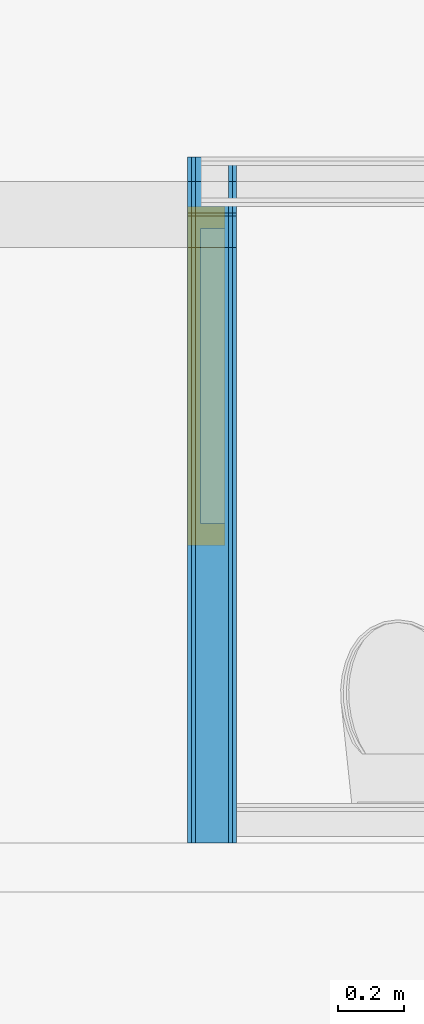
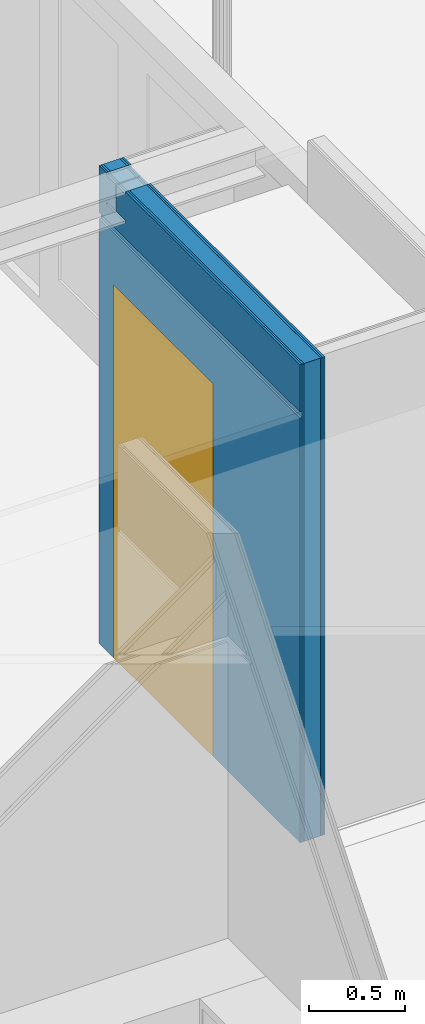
# One storey, part 17 of 35: 5 building element parts, 1 door, 1 opening, 1 element without a shape of its own.
"""IFC2X3 building model written with IfcOpenShell, lengths in millimetres."""

from ifc_helpers import new_model, entity, si_unit, converted_unit, derived_unit, money_unit, direction, frame, origin_with_axes, place, context, subcontext, project, spatial, faceted_brep, source, transform, mapped, material, type_object, type_shapes, element, fill, aggregate, save


model = new_model("IFC2X3")

# Units and contexts
model_context = context("Model", 3, precision=0.01, world=origin_with_axes(), true_north=direction((0.0, 1.0)))
body_context = subcontext(model_context, "Body", "Model", "MODEL_VIEW")
ifc_project = project(units=[si_unit("LENGTHUNIT", "METRE", prefix="MILLI"), si_unit("AREAUNIT", "SQUARE_METRE"), si_unit("VOLUMEUNIT", "CUBIC_METRE"), converted_unit("PLANEANGLEUNIT", "DEGREE", entity("IfcPlaneAngleMeasure", 0.0174532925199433), si_unit("PLANEANGLEUNIT", "RADIAN"), dimensions=[0, 0, 0, 0, 0, 0, 0]), money_unit("EUR"), converted_unit("TIMEUNIT", "Year", entity("IfcTimeMeasure", 31557600.0), si_unit("TIMEUNIT", "SECOND"), dimensions=[0, 0, 1, 0, 0, 0, 0]), si_unit("MASSUNIT", "GRAM", prefix="KILO"), si_unit("THERMODYNAMICTEMPERATUREUNIT", "DEGREE_CELSIUS"), si_unit("LUMINOUSINTENSITYUNIT", "LUMEN"), si_unit("ENERGYUNIT", "JOULE", prefix="MEGA"), derived_unit("THERMALCONDUCTANCEUNIT", [(si_unit("POWERUNIT", "WATT"), 1), (si_unit("LENGTHUNIT", "METRE"), -1), (si_unit("THERMODYNAMICTEMPERATUREUNIT", "KELVIN"), -1)]), derived_unit("SPECIFICHEATCAPACITYUNIT", [(si_unit("ENERGYUNIT", "JOULE"), 1), (si_unit("MASSUNIT", "GRAM", prefix="KILO"), -1), (si_unit("THERMODYNAMICTEMPERATUREUNIT", "KELVIN"), -1)]), derived_unit("MASSDENSITYUNIT", [(si_unit("MASSUNIT", "GRAM", prefix="KILO"), 1), (si_unit("VOLUMEUNIT", "CUBIC_METRE"), -1)])], contexts=[model_context])

# Site, building, storey
site_placement = place(None, origin_with_axes())
site = spatial("IfcSite", under=ifc_project, at=site_placement, Name="<site naam>", CompositionType="ELEMENT")
building_placement = place(site_placement, origin_with_axes())
building = spatial("IfcBuilding", under=site, at=building_placement, Name="<Naam gebouw>", CompositionType="ELEMENT")
storey_placement = place(building_placement, frame((0.0, 0.0, 6345.0), z_axis=(0.0, 0.0, 1.0), x_axis=(1.0, 0.0, 0.0)))
storey = spatial("IfcBuildingStorey", under=building, at=storey_placement, Name="02 2e tussenverdieping", CompositionType="ELEMENT", Elevation=6345.0)

# Door
door_style = type_object("IfcDoorStyle", Name="D1 27", ConstructionType="NOTDEFINED", OperationType="SINGLE_SWING_RIGHT", ParameterTakesPrecedence=False, Sizeable=False)
shared_shape = source(origin_with_axes(), body_context, "Body", "Brep", [
    faceted_brep([(467.0, -40.0, 0.0), (467.0, -40.0, 12.0), (450.0, -40.0, 12.0), (450.0, -40.0, 0.0), (-467.0, -40.0, 0.0), (-467.0, -40.0, 12.0), (-450.0, -40.0, 12.0), (-450.0, -114.0, 11.99999999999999), (450.0, -114.0, 11.99999999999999), (450.0, -114.0, 0.0), (-450.0, -114.0, 0.0), (-450.0, -40.0, 0.0)], [[[0, 1, 2, 3]], [[4, 5, 1, 0]], [[1, 5, 6, 7, 8, 2]], [[3, 2, 8, 9]], [[0, 3, 9, 10, 11, 4]], [[11, 6, 5, 4]], [[10, 7, 6, 11]], [[9, 8, 7, 10]]]),
    faceted_brep([(-449.9999999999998, -40.0, 0.0), (-450.0, -39.99999999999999, 2300.0), (-450.0, -114.0, 2300.0), (-450.0, -114.0, 0.0), (-467.0, -40.0, 2300.0), (-467.0, -40.0, 0.0), (-467.0, 0.0, 2300.0), (-517.0, 0.0, 2300.0), (-517.0, -114.0, 2300.0), (-517.0, -114.0, 0.0), (-517.0, 0.0, 0.0), (-467.0, 0.0, 0.0)], [[[0, 1, 2, 3]], [[4, 1, 0, 5]], [[4, 6, 7, 8, 2, 1]], [[3, 2, 8, 9]], [[5, 0, 3, 9, 10, 11]], [[6, 4, 5, 11]], [[6, 11, 10, 7]], [[10, 9, 8, 7]]]),
    faceted_brep([(467.0, -40.0, 2300.0), (450.0, -39.99999999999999, 2300.0), (450.0, -114.0, 2300.0), (517.0, -114.0, 2300.0), (517.0, 0.0, 2300.0), (467.0, 0.0, 2300.0), (467.0, -40.0, 0.0), (450.0, -40.0, 0.0), (450.0, -114.0, 0.0), (517.0, -114.0, 0.0), (517.0, 0.0, 0.0), (467.0, 0.0, 0.0)], [[[0, 1, 2, 3, 4, 5]], [[1, 0, 6, 7]], [[1, 7, 8, 2]], [[3, 2, 8, 9]], [[4, 3, 9, 10]], [[11, 5, 4, 10]], [[0, 5, 11, 6]], [[6, 11, 10, 9, 8, 7]]]),
    faceted_brep([(-467.0, 0.0, 2317.0), (-467.0, 0.0, 2300.0), (-517.0, 0.0, 2300.0), (-517.0, 0.0, 2367.0), (517.0, 0.0, 2367.0), (517.0, 0.0, 2300.0), (467.0, 0.0, 2300.0), (467.0, 0.0, 2317.0), (-467.0, -40.0, 2317.0), (-467.0, -40.0, 2300.0), (-450.0, -39.99999999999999, 2300.0), (-450.0, -114.0, 2300.0), (-517.0, -114.0, 2300.0), (-517.0, -114.0, 2367.0), (517.0, -114.0, 2367.0), (517.0, -114.0, 2300.0), (467.0, -40.0, 2300.0), (450.0, -114.0, 2300.0), (450.0, -39.99999999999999, 2300.0), (467.0, -40.0, 2317.0)], [[[0, 1, 2, 3, 4, 5, 6, 7]], [[1, 0, 8, 9]], [[9, 10, 11, 12, 2, 1]], [[2, 12, 13, 3]], [[3, 13, 14, 4]], [[4, 14, 15, 5]], [[16, 6, 5, 15, 17, 18]], [[7, 6, 16, 19]], [[0, 7, 19, 8]], [[16, 18, 10, 9, 8, 19]], [[10, 18, 17, 11]], [[17, 15, 14, 13, 12, 11]]]),
    faceted_brep([(467.0000000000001, 0.0, 0.0), (467.0000000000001, -40.0, 0.0), (-467.0, -40.0, 0.0), (-467.0, 0.0, 0.0), (467.0000000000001, 0.0, 2317.0), (467.0000000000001, -40.00000000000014, 2317.0), (-467.0, -40.00000000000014, 2317.0), (-467.0, 0.0, 2317.0)], [[[0, 1, 2, 3]], [[4, 5, 1, 0]], [[1, 5, 6, 2]], [[3, 2, 6, 7]], [[0, 3, 7, 4]], [[7, 6, 5, 4]]]),
])
type_shapes(door_style, [shared_shape])
wall_placement = place(storey_placement, frame((56949.7828413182, 8175.000000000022, 3.000000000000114), z_axis=(0.0, 0.0, 1.0), x_axis=(0.0, -1.0, 0.0)))
opening_placement = place(wall_placement, frame((666.9999999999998, 0.0, 0.0), z_axis=(0.0, 0.0, 1.0), x_axis=(1.0, 0.0, 0.0)))
door_placement = place(opening_placement, frame((450.0000000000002, 0.0, 0.0), z_axis=(0.0, 0.0, 1.0), x_axis=(-1.0, 0.0, 0.0)))
door = element("IfcDoor", 1, at=door_placement, inside=storey, type_object=door_style, Name="22_BI-A-01 sp_305", ObjectType="DOOR", OverallHeight=2367.0, OverallWidth=1034.0, context=body_context, shape_type="MappedRepresentation", body=[
    mapped(shared_shape, transform((450.0000000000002, 0.0, 0.0))),
])

# Wall, opening
wall_type = type_object("IfcWallType", Name="MS-01 GF 150 ECO DGS/2.100.2.A 150", PredefinedType="NOTDEFINED")
wall = element("IfcWall", 2, at=wall_placement, inside=storey, type_object=wall_type, Name="22_Binnenwand_MS-01")
opening = element("IfcOpeningElement", 3, at=opening_placement, cuts=wall, Name="22_BI-A-01 sp_305", context=body_context, shape_type="Brep", body=[
    faceted_brep([(517.0000000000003, 150.9999999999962, 2367.0), (517.0000000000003, 150.9999999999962, 0.0), (-516.9999999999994, 150.9999999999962, 0.0), (-516.9999999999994, 150.9999999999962, 2367.0), (517.0000000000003, -0.9999999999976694, 2367.0), (517.0000000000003, -0.9999999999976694, 0.0), (-516.9999999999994, -0.9999999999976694, 0.0), (-516.9999999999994, -0.9999999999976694, 2367.0)], [[[0, 1, 2, 3]], [[4, 5, 1, 0]], [[5, 6, 2, 1]], [[6, 7, 3, 2]], [[7, 4, 0, 3]], [[6, 5, 4, 7]]]),
])

fill(opening, door)

# Building element part
ifc_material_1 = material(Name="gipsplaat")
building_element_part_1_placement = place(wall_placement, origin_with_axes())
building_element_part_1 = element("IfcBuildingElementPart", 4, at=building_element_part_1_placement, material=ifc_material_1, Name="gipsplaat", context=body_context, shape_type="Brep", body=[
    faceted_brep([(74.99999683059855, 125.0, 3035.00000071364), (74.99999683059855, 137.5000000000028, 3035.00000071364), (0.0, 137.5000000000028, 3035.000000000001), (0.0, 125.0, 3035.000000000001), (74.99999698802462, 137.5000000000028, 3019.999993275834), (74.99999698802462, 125.0, 3019.999993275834), (275.000003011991, 137.5000000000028, 3019.999993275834), (275.0000031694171, 137.5000000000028, 3035.00000071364), (2089.999888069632, 137.5000000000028, 3035.000000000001), (2089.999888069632, 137.5000000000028, 0.0), (0.0, 137.5000000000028, 0.0), (170.5000000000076, 137.5000000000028, 3019.999993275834), (170.5000000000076, 137.5000000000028, 2849.999999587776), (74.99999698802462, 137.5000000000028, 2849.999999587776), (74.99999683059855, 137.5000000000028, 2834.99999214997), (275.0000031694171, 137.5000000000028, 2834.99999214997), (275.000003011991, 137.5000000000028, 2849.999999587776), (179.500000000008, 137.5000000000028, 2849.999999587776), (179.500000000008, 137.5000000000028, 3019.999993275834), (0.0, 125.0, 0.0), (2089.999888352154, 125.0, 0.0), (2089.999888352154, 125.0, 3035.000000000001), (275.0000031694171, 125.0, 3035.00000071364), (275.000003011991, 125.0, 3019.999993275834), (179.500000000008, 125.0, 3019.999993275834), (179.500000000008, 125.0, 2849.999999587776), (275.000003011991, 125.0, 2849.999999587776), (275.0000031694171, 125.0, 2834.99999214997), (74.99999683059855, 125.0, 2834.99999214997), (74.99999698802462, 125.0, 2849.999999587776), (170.5000000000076, 125.0, 2849.999999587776), (170.5000000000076, 125.0, 3019.999993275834)], [[[0, 1, 2, 3]], [[4, 1, 0, 5]], [[6, 7, 8, 9, 10, 2, 1, 4, 11, 12, 13, 14, 15, 16, 17, 18]], [[10, 19, 3, 2]], [[5, 0, 3, 19, 20, 21, 22, 23, 24, 25, 26, 27, 28, 29, 30, 31]], [[11, 4, 5, 31]], [[22, 7, 6, 23]], [[7, 22, 21, 8]], [[9, 8, 21, 20]], [[10, 9, 20, 19]], [[12, 11, 31, 30]], [[13, 12, 30, 29]], [[14, 13, 29, 28]], [[15, 14, 28, 27]], [[16, 15, 27, 26]], [[17, 16, 26, 25]], [[18, 17, 25, 24]], [[6, 18, 24, 23]]]),
])

building_element_part_2_placement = place(wall_placement, origin_with_axes())
building_element_part_2 = element("IfcBuildingElementPart", 5, at=building_element_part_2_placement, material=ifc_material_1, Name="gipsplaat", context=body_context, shape_type="Brep", body=[
    faceted_brep([(74.99999683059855, 137.5000000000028, 3035.00000071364), (74.99999683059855, 149.9999999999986, 3035.00000071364), (0.0, 149.9999999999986, 3035.000000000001), (0.0, 137.5000000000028, 3035.000000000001), (74.99999698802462, 149.9999999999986, 3019.999993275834), (74.99999698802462, 137.5000000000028, 3019.999993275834), (275.000003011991, 149.9999999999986, 3019.999993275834), (275.0000031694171, 149.9999999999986, 3035.00000071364), (2089.999887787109, 149.9999999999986, 3035.000000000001), (2089.999887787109, 149.9999999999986, 0.0), (0.0, 149.9999999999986, 0.0), (170.5000000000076, 149.9999999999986, 3019.999993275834), (170.5000000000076, 149.9999999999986, 2849.999999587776), (74.99999698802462, 149.9999999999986, 2849.999999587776), (74.99999683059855, 149.9999999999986, 2834.99999214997), (275.0000031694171, 149.9999999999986, 2834.99999214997), (275.000003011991, 149.9999999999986, 2849.999999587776), (179.500000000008, 149.9999999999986, 2849.999999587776), (179.500000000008, 149.9999999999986, 3019.999993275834), (0.0, 137.5000000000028, 0.0), (2089.999888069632, 137.5000000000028, 0.0), (2089.999888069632, 137.5000000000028, 3035.000000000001), (275.0000031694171, 137.5000000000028, 3035.00000071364), (275.000003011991, 137.5000000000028, 3019.999993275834), (179.500000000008, 137.5000000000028, 3019.999993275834), (179.500000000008, 137.5000000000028, 2849.999999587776), (275.000003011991, 137.5000000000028, 2849.999999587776), (275.0000031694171, 137.5000000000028, 2834.99999214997), (74.99999683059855, 137.5000000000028, 2834.99999214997), (74.99999698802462, 137.5000000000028, 2849.999999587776), (170.5000000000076, 137.5000000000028, 2849.999999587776), (170.5000000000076, 137.5000000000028, 3019.999993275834)], [[[0, 1, 2, 3]], [[4, 1, 0, 5]], [[6, 7, 8, 9, 10, 2, 1, 4, 11, 12, 13, 14, 15, 16, 17, 18]], [[10, 19, 3, 2]], [[5, 0, 3, 19, 20, 21, 22, 23, 24, 25, 26, 27, 28, 29, 30, 31]], [[11, 4, 5, 31]], [[22, 7, 6, 23]], [[7, 22, 21, 8]], [[9, 8, 21, 20]], [[10, 9, 20, 19]], [[12, 11, 31, 30]], [[13, 12, 30, 29]], [[14, 13, 29, 28]], [[15, 14, 28, 27]], [[16, 15, 27, 26]], [[17, 16, 26, 25]], [[18, 17, 25, 24]], [[6, 18, 24, 23]]]),
])

ifc_material_2 = material(Name="isolatie_steenwol LSW")
building_element_part_3_placement = place(wall_placement, origin_with_axes())
building_element_part_3 = element("IfcBuildingElementPart", 6, at=building_element_part_3_placement, material=ifc_material_2, Name="isolatie_steenwol LSW", context=body_context, shape_type="Brep", body=[
    faceted_brep([(74.99999683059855, 24.99999999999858, 3035.00000071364), (74.99999683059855, 125.0, 3035.00000071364), (0.0, 125.0, 3035.000000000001), (0.0, 24.99999999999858, 3035.000000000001), (74.99999698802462, 125.0, 3019.999993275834), (74.99999698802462, 24.99999999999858, 3019.999993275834), (275.000003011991, 125.0, 3019.999993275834), (275.0000031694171, 125.0, 3035.00000071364), (2089.999888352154, 125.0, 3035.000000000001), (2089.999888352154, 125.0, 0.0), (0.0, 125.0, 0.0), (170.5000000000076, 125.0, 3019.999993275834), (170.5000000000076, 125.0, 2849.999999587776), (74.99999698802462, 125.0, 2849.999999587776), (74.99999683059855, 125.0, 2834.99999214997), (275.0000031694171, 125.0, 2834.99999214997), (275.000003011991, 125.0, 2849.999999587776), (179.500000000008, 125.0, 2849.999999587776), (179.500000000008, 125.0, 3019.999993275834), (0.0, 24.99999999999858, 0.0), (2089.999890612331, 24.99999999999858, 0.0), (2089.999890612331, 24.99999999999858, 3035.000000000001), (275.0000031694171, 24.99999999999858, 3035.00000071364), (275.000003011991, 24.99999999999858, 3019.999993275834), (179.500000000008, 24.99999999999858, 3019.999993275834), (179.500000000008, 24.99999999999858, 2849.999999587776), (275.000003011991, 24.99999999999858, 2849.999999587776), (275.0000031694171, 24.99999999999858, 2834.99999214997), (74.99999683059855, 24.99999999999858, 2834.99999214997), (74.99999698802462, 24.99999999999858, 2849.999999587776), (170.5000000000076, 24.99999999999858, 2849.999999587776), (170.5000000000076, 24.99999999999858, 3019.999993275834)], [[[0, 1, 2, 3]], [[4, 1, 0, 5]], [[6, 7, 8, 9, 10, 2, 1, 4, 11, 12, 13, 14, 15, 16, 17, 18]], [[10, 19, 3, 2]], [[5, 0, 3, 19, 20, 21, 22, 23, 24, 25, 26, 27, 28, 29, 30, 31]], [[11, 4, 5, 31]], [[22, 7, 6, 23]], [[7, 22, 21, 8]], [[9, 8, 21, 20]], [[10, 9, 20, 19]], [[12, 11, 31, 30]], [[13, 12, 30, 29]], [[14, 13, 29, 28]], [[15, 14, 28, 27]], [[16, 15, 27, 26]], [[17, 16, 26, 25]], [[18, 17, 25, 24]], [[6, 18, 24, 23]]]),
])

building_element_part_4_placement = place(wall_placement, origin_with_axes())
building_element_part_4 = element("IfcBuildingElementPart", 7, at=building_element_part_4_placement, material=ifc_material_1, Name="gipsplaat", context=body_context, shape_type="Brep", body=[
    faceted_brep([(74.99999683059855, 0.0, 3035.00000071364), (74.99999683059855, 12.50000000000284, 3035.00000071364), (0.0, 12.50000000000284, 3035.000000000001), (0.0, 0.0, 3035.000000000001), (74.99999698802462, 12.50000000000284, 3019.999993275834), (74.99999698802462, 0.0, 3019.999993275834), (275.000003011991, 12.50000000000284, 3019.999993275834), (275.0000031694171, 12.50000000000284, 3035.00000071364), (2089.999890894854, 12.50000000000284, 3035.000000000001), (2089.999941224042, 12.50000000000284, 2737.000000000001), (2.946380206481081e-05, 12.50000000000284, 2737.000000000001), (170.5000000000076, 12.50000000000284, 3019.999993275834), (170.5000000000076, 12.50000000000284, 2849.999999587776), (74.99999698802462, 12.50000000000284, 2849.999999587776), (74.99999683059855, 12.50000000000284, 2834.99999214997), (275.0000031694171, 12.50000000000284, 2834.99999214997), (275.000003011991, 12.50000000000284, 2849.999999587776), (179.500000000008, 12.50000000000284, 2849.999999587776), (179.500000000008, 12.50000000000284, 3019.999993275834), (2.946380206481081e-05, 0.0, 2737.000000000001), (2089.999941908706, 0.0, 2737.000000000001), (2089.999891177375, 0.0, 3035.000000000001), (275.0000031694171, 0.0, 3035.00000071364), (275.000003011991, 0.0, 3019.999993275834), (179.500000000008, 0.0, 3019.999993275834), (179.500000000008, 0.0, 2849.999999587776), (275.000003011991, 0.0, 2849.999999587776), (275.0000031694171, 0.0, 2834.99999214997), (74.99999683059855, 0.0, 2834.99999214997), (74.99999698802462, 0.0, 2849.999999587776), (170.5000000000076, 0.0, 2849.999999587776), (170.5000000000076, 0.0, 3019.999993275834)], [[[0, 1, 2, 3]], [[4, 1, 0, 5]], [[6, 7, 8, 9, 10, 2, 1, 4, 11, 12, 13, 14, 15, 16, 17, 18]], [[2, 10, 19, 3]], [[5, 0, 3, 19, 20, 21, 22, 23, 24, 25, 26, 27, 28, 29, 30, 31]], [[11, 4, 5, 31]], [[22, 7, 6, 23]], [[7, 22, 21, 8]], [[21, 20, 9, 8]], [[20, 19, 10, 9]], [[12, 11, 31, 30]], [[13, 12, 30, 29]], [[14, 13, 29, 28]], [[15, 14, 28, 27]], [[16, 15, 27, 26]], [[17, 16, 26, 25]], [[18, 17, 25, 24]], [[6, 18, 24, 23]]]),
    faceted_brep([(2.946380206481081e-05, 0.0, 2697.000000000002), (2.946380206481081e-05, 12.50000000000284, 2697.000000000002), (0.0, 12.50000000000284, 0.0), (0.0, 0.0, 0.0), (2089.999941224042, 12.50000000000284, 2697.000000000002), (2089.999941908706, 0.0, 2697.000000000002), (2089.999890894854, 12.50000000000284, 0.0), (2089.999891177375, 0.0, 0.0)], [[[0, 1, 2, 3]], [[4, 1, 0, 5]], [[1, 4, 6, 2]], [[6, 7, 3, 2]], [[5, 0, 3, 7]], [[4, 5, 7, 6]]]),
])

building_element_part_5_placement = place(wall_placement, origin_with_axes())
building_element_part_5 = element("IfcBuildingElementPart", 8, at=building_element_part_5_placement, material=ifc_material_1, Name="gipsplaat", context=body_context, shape_type="Brep", body=[
    faceted_brep([(74.99999683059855, 12.50000000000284, 3035.00000071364), (74.99999683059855, 24.99999999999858, 3035.00000071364), (0.0, 24.99999999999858, 3035.000000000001), (0.0, 12.50000000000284, 3035.000000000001), (74.99999698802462, 24.99999999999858, 3019.999993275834), (74.99999698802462, 12.50000000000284, 3019.999993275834), (275.000003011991, 24.99999999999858, 3019.999993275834), (275.0000031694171, 24.99999999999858, 3035.00000071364), (2089.999890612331, 24.99999999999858, 3035.000000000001), (2089.999890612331, 24.99999999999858, 0.0), (0.0, 24.99999999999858, 0.0), (170.5000000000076, 24.99999999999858, 3019.999993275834), (170.5000000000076, 24.99999999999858, 2849.999999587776), (74.99999698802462, 24.99999999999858, 2849.999999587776), (74.99999683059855, 24.99999999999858, 2834.99999214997), (275.0000031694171, 24.99999999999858, 2834.99999214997), (275.000003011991, 24.99999999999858, 2849.999999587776), (179.500000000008, 24.99999999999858, 2849.999999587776), (179.500000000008, 24.99999999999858, 3019.999993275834), (0.0, 12.50000000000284, 0.0), (2089.999890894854, 12.50000000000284, 0.0), (2089.999890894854, 12.50000000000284, 3035.000000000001), (275.0000031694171, 12.50000000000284, 3035.00000071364), (275.000003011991, 12.50000000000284, 3019.999993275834), (179.500000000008, 12.50000000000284, 3019.999993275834), (179.500000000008, 12.50000000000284, 2849.999999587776), (275.000003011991, 12.50000000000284, 2849.999999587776), (275.0000031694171, 12.50000000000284, 2834.99999214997), (74.99999683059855, 12.50000000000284, 2834.99999214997), (74.99999698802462, 12.50000000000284, 2849.999999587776), (170.5000000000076, 12.50000000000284, 2849.999999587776), (170.5000000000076, 12.50000000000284, 3019.999993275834)], [[[0, 1, 2, 3]], [[4, 1, 0, 5]], [[6, 7, 8, 9, 10, 2, 1, 4, 11, 12, 13, 14, 15, 16, 17, 18]], [[10, 19, 3, 2]], [[5, 0, 3, 19, 20, 21, 22, 23, 24, 25, 26, 27, 28, 29, 30, 31]], [[11, 4, 5, 31]], [[22, 7, 6, 23]], [[7, 22, 21, 8]], [[9, 8, 21, 20]], [[10, 9, 20, 19]], [[12, 11, 31, 30]], [[13, 12, 30, 29]], [[14, 13, 29, 28]], [[15, 14, 28, 27]], [[16, 15, 27, 26]], [[17, 16, 26, 25]], [[18, 17, 25, 24]], [[6, 18, 24, 23]]]),
])

aggregate(wall, [building_element_part_1, building_element_part_2, building_element_part_3, building_element_part_4, building_element_part_5])

save(model, "model.ifc")
